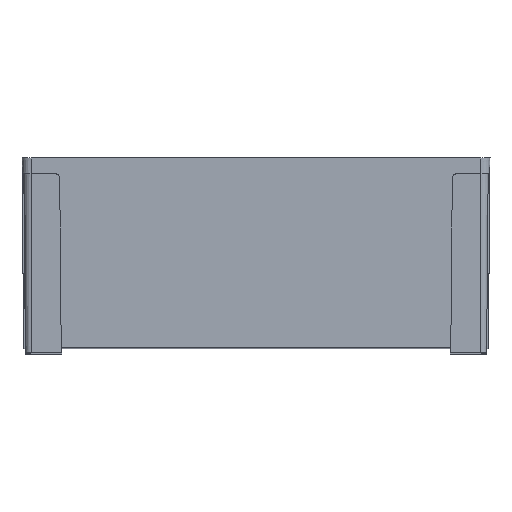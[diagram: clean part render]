
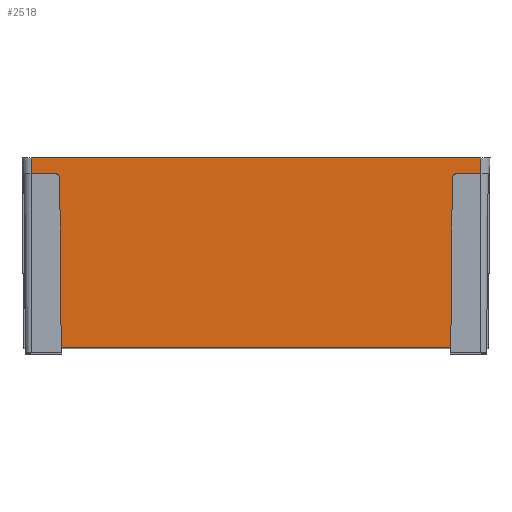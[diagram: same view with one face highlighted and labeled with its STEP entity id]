
A CAD part, top view. The second image highlights one B-rep face of the part: STEP entity #2518.
In plain terms, the highlighted planar face has unit normal (0, -0.009, 1).
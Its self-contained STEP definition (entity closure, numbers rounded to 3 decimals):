
#2423 = VERTEX_POINT ( 'NONE', #6595 ) ;
#2425 = EDGE_CURVE ( 'NONE', #2426, #2423, #6594, .T. ) ;
#2426 = VERTEX_POINT ( 'NONE', #6590 ) ;
#2510 = VERTEX_POINT ( 'NONE', #6750 ) ;
#2512 = EDGE_CURVE ( 'NONE', #2510, #2513, #6749, .T. ) ;
#2513 = VERTEX_POINT ( 'NONE', #6745 ) ;
#2517 = EDGE_CURVE ( 'NONE', #2598, #2602, #6739, .T. ) ;
#2518 = ADVANCED_FACE ( 'NONE', ( #6735 ), #6734, .T. ) ;
#2519 = EDGE_LOOP ( 'NONE', ( #2520, #2523, #2585, #2587, #2588, #2590, #2591, #2594, #2571, #2573 ) ) ;
#2520 = ORIENTED_EDGE ( 'NONE', *, *, #2521, .F. ) ;
#2521 = EDGE_CURVE ( 'NONE', #2522, #2423, #6787, .T. ) ;
#2522 = VERTEX_POINT ( 'NONE', #6783 ) ;
#2523 = ORIENTED_EDGE ( 'NONE', *, *, #2584, .T. ) ;
#2524 = VERTEX_POINT ( 'NONE', #6782 ) ;
#2571 = ORIENTED_EDGE ( 'NONE', *, *, #2572, .F. ) ;
#2572 = EDGE_CURVE ( 'NONE', #2426, #2596, #6838, .T. ) ;
#2573 = ORIENTED_EDGE ( 'NONE', *, *, #2425, .T. ) ;
#2584 = EDGE_CURVE ( 'NONE', #2522, #2524, #6855, .T. ) ;
#2585 = ORIENTED_EDGE ( 'NONE', *, *, #2586, .F. ) ;
#2586 = EDGE_CURVE ( 'NONE', #2598, #2524, #6892, .T. ) ;
#2587 = ORIENTED_EDGE ( 'NONE', *, *, #2517, .T. ) ;
#2588 = ORIENTED_EDGE ( 'NONE', *, *, #2589, .F. ) ;
#2589 = EDGE_CURVE ( 'NONE', #2513, #2602, #6888, .T. ) ;
#2590 = ORIENTED_EDGE ( 'NONE', *, *, #2512, .F. ) ;
#2591 = ORIENTED_EDGE ( 'NONE', *, *, #2592, .T. ) ;
#2592 = EDGE_CURVE ( 'NONE', #2510, #2593, #6884, .T. ) ;
#2593 = VERTEX_POINT ( 'NONE', #6880 ) ;
#2594 = ORIENTED_EDGE ( 'NONE', *, *, #2595, .T. ) ;
#2595 = EDGE_CURVE ( 'NONE', #2593, #2596, #6877, .T. ) ;
#2596 = VERTEX_POINT ( 'NONE', #6879 ) ;
#2598 = VERTEX_POINT ( 'NONE', #6919 ) ;
#2602 = VERTEX_POINT ( 'NONE', #6913 ) ;
#6590 = CARTESIAN_POINT ( 'NONE',  ( -74.965, -73., 126.913 ) ) ;
#6591 = DIRECTION ( 'NONE',  ( 1., 0., 0. ) ) ;
#6592 = VECTOR ( 'NONE', #6591, 1000. ) ;
#6593 = CARTESIAN_POINT ( 'NONE',  ( -86.55, -73., 126.913 ) ) ;
#6594 = LINE ( 'NONE', #6593, #6592 ) ;
#6595 = CARTESIAN_POINT ( 'NONE',  ( 74.965, -73., 126.913 ) ) ;
#6730 = DIRECTION ( 'NONE',  ( 0., -1., -0.009 ) ) ;
#6731 = DIRECTION ( 'NONE',  ( 0., -0.009, 1. ) ) ;
#6732 = CARTESIAN_POINT ( 'NONE',  ( -86.55, 0., 127.55 ) ) ;
#6733 = AXIS2_PLACEMENT_3D ( 'NONE', #6732, #6731, #6730 ) ;
#6734 = PLANE ( 'NONE',  #6733 ) ;
#6735 = FACE_OUTER_BOUND ( 'NONE', #2519, .T. ) ;
#6736 = DIRECTION ( 'NONE',  ( 0., 1., 0.009 ) ) ;
#6737 = VECTOR ( 'NONE', #6736, 1000. ) ;
#6738 = CARTESIAN_POINT ( 'NONE',  ( 86.55, 0., 127.55 ) ) ;
#6739 = LINE ( 'NONE', #6738, #6737 ) ;
#6745 = CARTESIAN_POINT ( 'NONE',  ( -86.55, 0., 127.55 ) ) ;
#6746 = DIRECTION ( 'NONE',  ( 0., 1., 0.009 ) ) ;
#6747 = VECTOR ( 'NONE', #6746, 1000. ) ;
#6748 = CARTESIAN_POINT ( 'NONE',  ( -86.55, 0., 127.55 ) ) ;
#6749 = LINE ( 'NONE', #6748, #6747 ) ;
#6750 = CARTESIAN_POINT ( 'NONE',  ( -86.55, -6., 127.498 ) ) ;
#6782 = CARTESIAN_POINT ( 'NONE',  ( 77.533, -6., 127.498 ) ) ;
#6783 = CARTESIAN_POINT ( 'NONE',  ( 75.533, -7.983, 127.48 ) ) ;
#6784 = DIRECTION ( 'NONE',  ( -0.009, -1., -0.009 ) ) ;
#6785 = VECTOR ( 'NONE', #6784, 1000. ) ;
#6786 = CARTESIAN_POINT ( 'NONE',  ( 75.59, -1.415, 127.538 ) ) ;
#6787 = LINE ( 'NONE', #6786, #6785 ) ;
#6835 = DIRECTION ( 'NONE',  ( -0.009, 1., 0.009 ) ) ;
#6836 = VECTOR ( 'NONE', #6835, 1000. ) ;
#6837 = CARTESIAN_POINT ( 'NONE',  ( -75.603, 0.096, 127.551 ) ) ;
#6838 = LINE ( 'NONE', #6837, #6836 ) ;
#6855 =( BOUNDED_CURVE ( )  B_SPLINE_CURVE ( 3, ( #6896, #6895, #6894, #6893 ),
 .UNSPECIFIED., .F., .T. ) 
 B_SPLINE_CURVE_WITH_KNOTS ( ( 4, 4 ),
 ( 1.58, 3.142 ),
 .UNSPECIFIED. ) 
 CURVE ( )  GEOMETRIC_REPRESENTATION_ITEM ( )  RATIONAL_B_SPLINE_CURVE ( ( 1., 0.807, 0.807, 1. ) ) 
 REPRESENTATION_ITEM ( '' )  );
#6875 = CARTESIAN_POINT ( 'NONE',  ( -76.369, -6., 127.498 ) ) ;
#6876 = CARTESIAN_POINT ( 'NONE',  ( -77.533, -6., 127.498 ) ) ;
#6877 =( BOUNDED_CURVE ( )  B_SPLINE_CURVE ( 3, ( #6876, #6875, #6925, #6924 ),
 .UNSPECIFIED., .F., .T. ) 
 B_SPLINE_CURVE_WITH_KNOTS ( ( 4, 4 ),
 ( 3.142, 4.704 ),
 .UNSPECIFIED. ) 
 CURVE ( )  GEOMETRIC_REPRESENTATION_ITEM ( )  RATIONAL_B_SPLINE_CURVE ( ( 1., 0.807, 0.807, 1. ) ) 
 REPRESENTATION_ITEM ( '' )  );
#6879 = CARTESIAN_POINT ( 'NONE',  ( -75.533, -7.983, 127.48 ) ) ;
#6880 = CARTESIAN_POINT ( 'NONE',  ( -77.533, -6., 127.498 ) ) ;
#6881 = DIRECTION ( 'NONE',  ( 1., 0., 0. ) ) ;
#6882 = VECTOR ( 'NONE', #6881, 1000. ) ;
#6883 = CARTESIAN_POINT ( 'NONE',  ( -86.55, -6., 127.498 ) ) ;
#6884 = LINE ( 'NONE', #6883, #6882 ) ;
#6885 = DIRECTION ( 'NONE',  ( 1., 0., 0. ) ) ;
#6886 = VECTOR ( 'NONE', #6885, 1000. ) ;
#6887 = CARTESIAN_POINT ( 'NONE',  ( -86.55, 0., 127.55 ) ) ;
#6888 = LINE ( 'NONE', #6887, #6886 ) ;
#6889 = DIRECTION ( 'NONE',  ( -1., 0., 0. ) ) ;
#6890 = VECTOR ( 'NONE', #6889, 1000. ) ;
#6891 = CARTESIAN_POINT ( 'NONE',  ( -86.55, -6., 127.498 ) ) ;
#6892 = LINE ( 'NONE', #6891, #6890 ) ;
#6893 = CARTESIAN_POINT ( 'NONE',  ( 77.533, -6., 127.498 ) ) ;
#6894 = CARTESIAN_POINT ( 'NONE',  ( 76.369, -6., 127.498 ) ) ;
#6895 = CARTESIAN_POINT ( 'NONE',  ( 75.543, -6.819, 127.49 ) ) ;
#6896 = CARTESIAN_POINT ( 'NONE',  ( 75.533, -7.983, 127.48 ) ) ;
#6913 = CARTESIAN_POINT ( 'NONE',  ( 86.55, 0., 127.55 ) ) ;
#6919 = CARTESIAN_POINT ( 'NONE',  ( 86.55, -6., 127.498 ) ) ;
#6924 = CARTESIAN_POINT ( 'NONE',  ( -75.533, -7.983, 127.48 ) ) ;
#6925 = CARTESIAN_POINT ( 'NONE',  ( -75.543, -6.819, 127.49 ) ) ;
